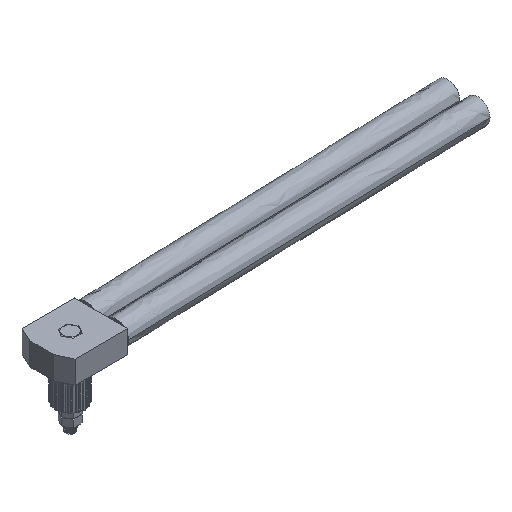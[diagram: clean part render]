
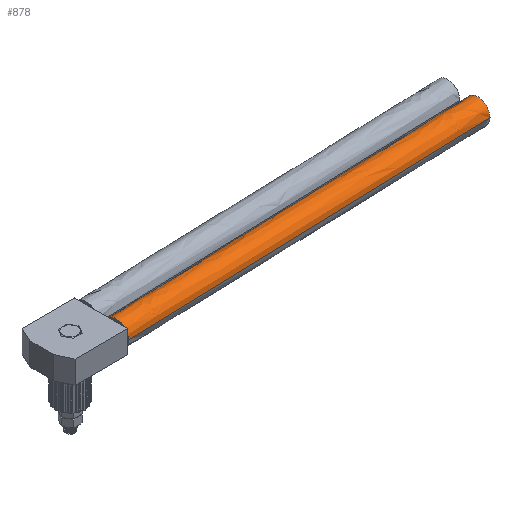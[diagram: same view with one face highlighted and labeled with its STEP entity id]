
A CAD part, isometric view. The second image highlights one B-rep face of the part: STEP entity #878.
In plain terms, the highlighted free-form (B-spline) face has degree [1, 2] with [2, 5] control points.
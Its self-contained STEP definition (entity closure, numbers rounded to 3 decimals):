
#878=ADVANCED_FACE('',(#1364),#7904,.T.);
#1364=FACE_OUTER_BOUND('',#1851,.T.);
#1851=EDGE_LOOP('',(#2398,#2399,#2400,#2401));
#2398=ORIENTED_EDGE('',*,*,#4592,.T.);
#2399=ORIENTED_EDGE('',*,*,#4582,.F.);
#2400=ORIENTED_EDGE('',*,*,#4590,.F.);
#2401=ORIENTED_EDGE('',*,*,#4594,.F.);
#4582=EDGE_CURVE('',#7004,#7011,#6589,.T.);
#4590=EDGE_CURVE('',#7008,#7004,#5793,.T.);
#4592=EDGE_CURVE('',#7010,#7011,#5795,.T.);
#4594=EDGE_CURVE('',#7010,#7008,#6597,.T.);
#5793=(
BOUNDED_CURVE()
B_SPLINE_CURVE(1,(#8634,#8635),.UNSPECIFIED.,.F.,.F.)
B_SPLINE_CURVE_WITH_KNOTS((2,2),(32.78,478.661),
 .UNSPECIFIED.)
CURVE()
GEOMETRIC_REPRESENTATION_ITEM()
RATIONAL_B_SPLINE_CURVE((1.,1.))
REPRESENTATION_ITEM('')
);
#5795=(
BOUNDED_CURVE()
B_SPLINE_CURVE(1,(#8638,#8639),.UNSPECIFIED.,.F.,.F.)
B_SPLINE_CURVE_WITH_KNOTS((2,2),(32.78,478.661),
 .UNSPECIFIED.)
CURVE()
GEOMETRIC_REPRESENTATION_ITEM()
RATIONAL_B_SPLINE_CURVE((1.,1.))
REPRESENTATION_ITEM('')
);
#6589=B_SPLINE_CURVE_WITH_KNOTS('',3,(#8548,#8549,#8550,#8551,#8552,#8553,
#8554,#8555,#8556,#8557,#8558,#8559,#8560,#8561,#8562,#8563,#8564,#8565,
#8566,#8567,#8568,#8569,#8570),.UNSPECIFIED.,.F.,.F.,(4,2,2,2,2,3,2,2,2,
2,4),(0.,5.926,11.852,17.778,20.677,
23.691,26.706,29.604,35.531,41.457,
47.383),.UNSPECIFIED.);
#6597=B_SPLINE_CURVE_WITH_KNOTS('',3,(#8644,#8645,#8646,#8647,#8648,#8649,
#8650,#8651,#8652,#8653,#8654,#8655,#8656,#8657,#8658),.UNSPECIFIED.,.F.,
 .F.,(4,2,2,3,2,2,4),(47.898,59.93,65.889,
71.847,77.805,83.763,95.796),
 .UNSPECIFIED.);
#7004=VERTEX_POINT('',#8534);
#7008=VERTEX_POINT('',#8538);
#7010=VERTEX_POINT('',#8540);
#7011=VERTEX_POINT('',#8541);
#7904=(
BOUNDED_SURFACE()
B_SPLINE_SURFACE(1,2,((#8513,#8514,#8515,#8516,#8517),(#8518,#8519,#8520,
#8521,#8522)),.UNSPECIFIED.,.F.,.F.,.F.)
B_SPLINE_SURFACE_WITH_KNOTS((2,2),(3,2,3),(0.,478.92),(47.124,
70.686,94.248),.UNSPECIFIED.)
GEOMETRIC_REPRESENTATION_ITEM()
RATIONAL_B_SPLINE_SURFACE(((1.,0.707,1.,0.707,1.),
(1.,0.707,1.,0.707,1.)))
REPRESENTATION_ITEM('')
SURFACE()
);
#8513=CARTESIAN_POINT('',(516.929,-3.516,33.176));
#8514=CARTESIAN_POINT('',(516.445,-3.516,48.169));
#8515=CARTESIAN_POINT('',(516.445,-18.516,48.169));
#8516=CARTESIAN_POINT('',(516.445,-33.516,48.169));
#8517=CARTESIAN_POINT('',(516.929,-33.516,33.176));
#8518=CARTESIAN_POINT('',(38.259,-3.516,17.715));
#8519=CARTESIAN_POINT('',(37.775,-3.516,32.708));
#8520=CARTESIAN_POINT('',(37.775,-18.516,32.708));
#8521=CARTESIAN_POINT('',(37.775,-33.516,32.708));
#8522=CARTESIAN_POINT('',(38.259,-33.516,17.715));
#8534=CARTESIAN_POINT('',(38.517,-33.516,17.724));
#8538=CARTESIAN_POINT('',(484.166,-33.516,32.118));
#8540=CARTESIAN_POINT('',(484.166,-3.516,32.118));
#8541=CARTESIAN_POINT('',(38.517,-3.516,17.724));
#8548=CARTESIAN_POINT('',(38.517,-33.516,17.724));
#8549=CARTESIAN_POINT('',(38.517,-33.516,19.694));
#8550=CARTESIAN_POINT('',(38.517,-33.128,21.645));
#8551=CARTESIAN_POINT('',(38.517,-31.622,25.286));
#8552=CARTESIAN_POINT('',(38.517,-30.517,26.94));
#8553=CARTESIAN_POINT('',(38.517,-27.731,29.728));
#8554=CARTESIAN_POINT('',(38.517,-26.078,30.834));
#8555=CARTESIAN_POINT('',(38.517,-23.368,31.958));
#8556=CARTESIAN_POINT('',(38.517,-22.444,32.24));
#8557=CARTESIAN_POINT('',(38.517,-20.518,32.631));
#8558=CARTESIAN_POINT('',(38.517,-19.518,32.732));
#8559=CARTESIAN_POINT('',(38.517,-18.516,32.732));
#8560=CARTESIAN_POINT('',(38.517,-17.514,32.732));
#8561=CARTESIAN_POINT('',(38.517,-16.515,32.631));
#8562=CARTESIAN_POINT('',(38.517,-14.588,32.24));
#8563=CARTESIAN_POINT('',(38.517,-13.665,31.958));
#8564=CARTESIAN_POINT('',(38.517,-10.955,30.834));
#8565=CARTESIAN_POINT('',(38.517,-9.301,29.728));
#8566=CARTESIAN_POINT('',(38.517,-6.515,26.94));
#8567=CARTESIAN_POINT('',(38.517,-5.411,25.286));
#8568=CARTESIAN_POINT('',(38.517,-3.904,21.645));
#8569=CARTESIAN_POINT('',(38.517,-3.516,19.694));
#8570=CARTESIAN_POINT('',(38.517,-3.516,17.724));
#8634=CARTESIAN_POINT('',(484.166,-33.516,32.118));
#8635=CARTESIAN_POINT('',(38.517,-33.516,17.724));
#8638=CARTESIAN_POINT('',(484.166,-3.516,32.118));
#8639=CARTESIAN_POINT('',(38.517,-3.516,17.724));
#8644=CARTESIAN_POINT('',(484.166,-3.516,32.118));
#8645=CARTESIAN_POINT('',(484.166,-3.516,36.097));
#8646=CARTESIAN_POINT('',(484.166,-5.095,39.914));
#8647=CARTESIAN_POINT('',(484.166,-9.301,44.123));
#8648=CARTESIAN_POINT('',(484.166,-10.954,45.228));
#8649=CARTESIAN_POINT('',(484.166,-14.595,46.738));
#8650=CARTESIAN_POINT('',(484.166,-16.546,47.126));
#8651=CARTESIAN_POINT('',(484.166,-18.516,47.126));
#8652=CARTESIAN_POINT('',(484.166,-20.487,47.126));
#8653=CARTESIAN_POINT('',(484.166,-22.438,46.738));
#8654=CARTESIAN_POINT('',(484.166,-26.078,45.228));
#8655=CARTESIAN_POINT('',(484.166,-27.732,44.123));
#8656=CARTESIAN_POINT('',(484.166,-31.937,39.914));
#8657=CARTESIAN_POINT('',(484.166,-33.516,36.097));
#8658=CARTESIAN_POINT('',(484.166,-33.516,32.118));
